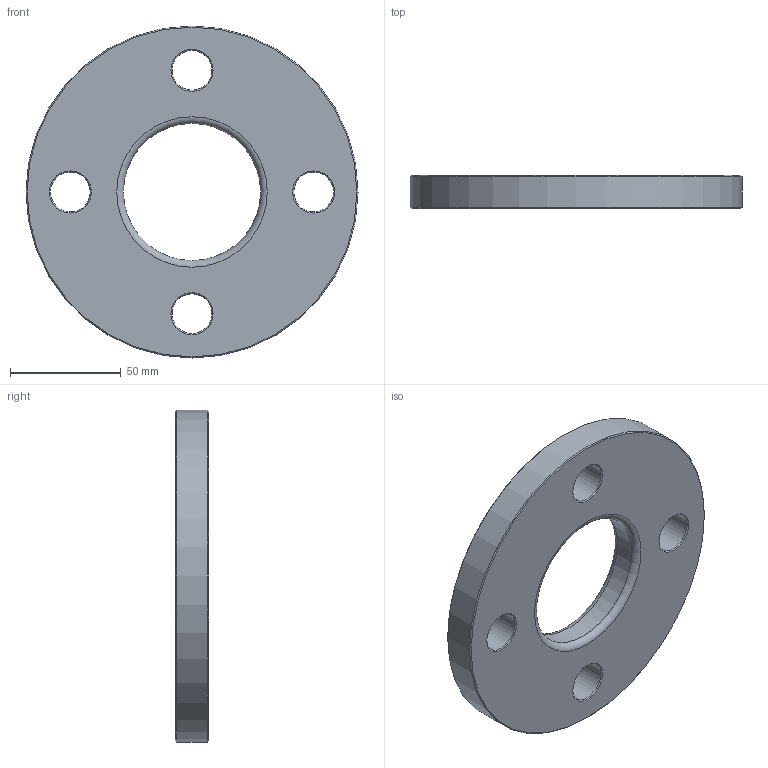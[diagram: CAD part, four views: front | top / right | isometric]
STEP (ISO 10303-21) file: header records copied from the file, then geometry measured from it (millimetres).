
FILE_DESCRIPTION(/* description */ ('Unknown'),/* implementation_level */ '2;1');
FILE_NAME(/* name */ 'FZ050L',/* time_stamp */ '2021-03-15T15:16:57+01:00',/* author */ ('Unknown'),/* organization */ ('Unknown'),/* preprocessor_version */ 'ST-DEVELOPER v16.7',/* originating_system */ 'Solid Edge',/* authorisation */ 'Unknown');
FILE_SCHEMA (('AUTOMOTIVE_DESIGN {1 0 10303 214 3 1 1}'));
Length unit declared in the file: millimetre
Products named in the file (1): FZ050L
Bounding box: 150 x 15 x 150 mm (x, y, z)
Volume: 203573.9 mm3; surface area: 39752 mm2
Topology: 1 solids, 1 shells, 20 faces, 54 edges, 36 vertices
Faces by surface type: cone 10, cylinder 6, plane 2, torus 2
Full cylindrical faces by diameter (mm): 18 x4, 62 x1, 150 x1
Entity records: 494 total; most frequent: DIRECTION 90, CARTESIAN_POINT 69, ORIENTED_EDGE 48, EDGE_LOOP 48, FACE_BOUND 48, AXIS2_PLACEMENT_3D 45, EDGE_CURVE 24, VERTEX_POINT 24
